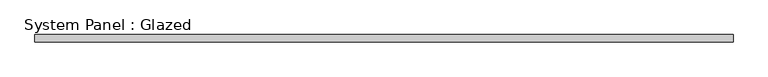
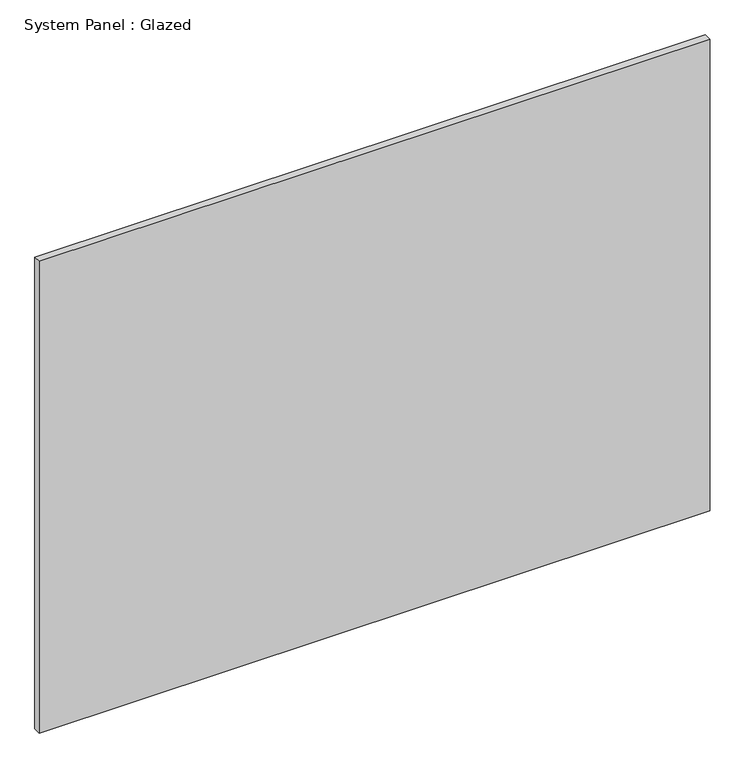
"""IFC4 building model written with IfcOpenShell, lengths in millimetres: plate geometry, System Panel : Glazed."""

from ifc_helpers import new_model, si_unit, origin, origin_with_axes, place, context, project, spatial, polyline, outline, extrude, source, transform, mapped, element, save


def system_panel_glazed_38e9afd9(model_context):
    return source(origin(), model_context, "Body", "SweptSolid", [
        extrude(outline(polyline([(1187.45, -44.45), (-1187.45, -44.45), (-1187.45, -19.05), (1187.45, -19.05), (1187.45, -44.45)])), origin_with_axes(), (0.0, 0.0, 1.0), 1765.3),
    ])


if __name__ == "__main__":
    model = new_model("IFC4")
    model_context = context("Model", 3, world=origin())
    ifc_project = project(units=[si_unit("LENGTHUNIT", "METRE", prefix="MILLI")], contexts=[model_context])
    site = spatial("IfcSite", under=ifc_project)
    building = spatial("IfcBuilding", under=site)
    placement = place(None, origin())
    system_panel_glazed_shape = system_panel_glazed_38e9afd9(model_context)
    element("IfcPlate", 1, ObjectType="System Panel : Glazed", at=placement, inside=building, context=model_context, shape_type="MappedRepresentation", body=[
        mapped(system_panel_glazed_shape, transform((0.0, 0.0, 0.0), x_axis=(1.0, 0.0, 0.0), y_axis=(0.0, 1.0, 0.0), z_axis=(0.0, 0.0, 1.0))),
    ])
    save(model, "model.ifc")
